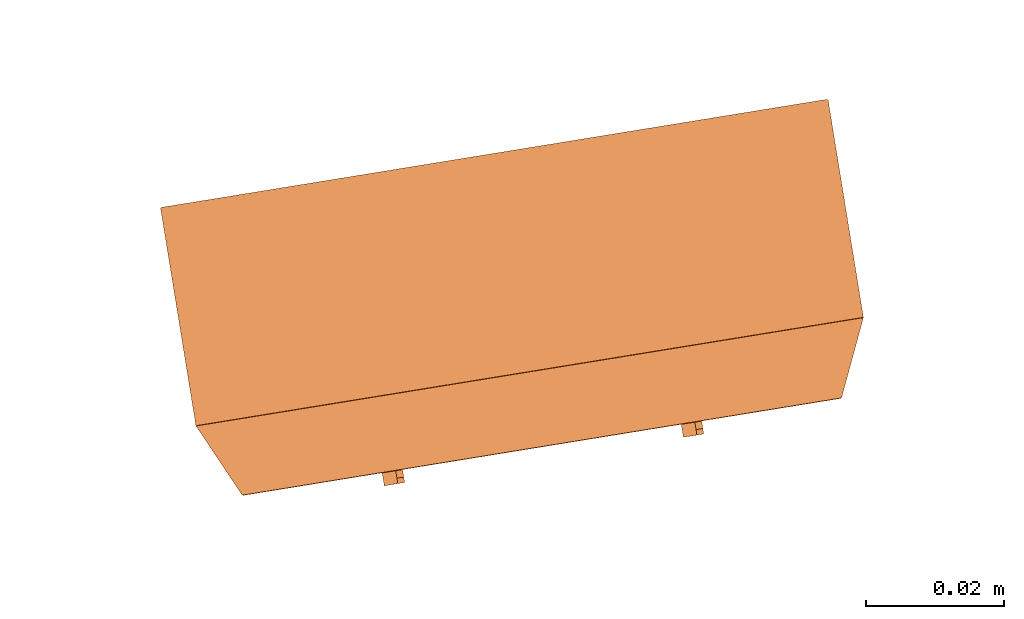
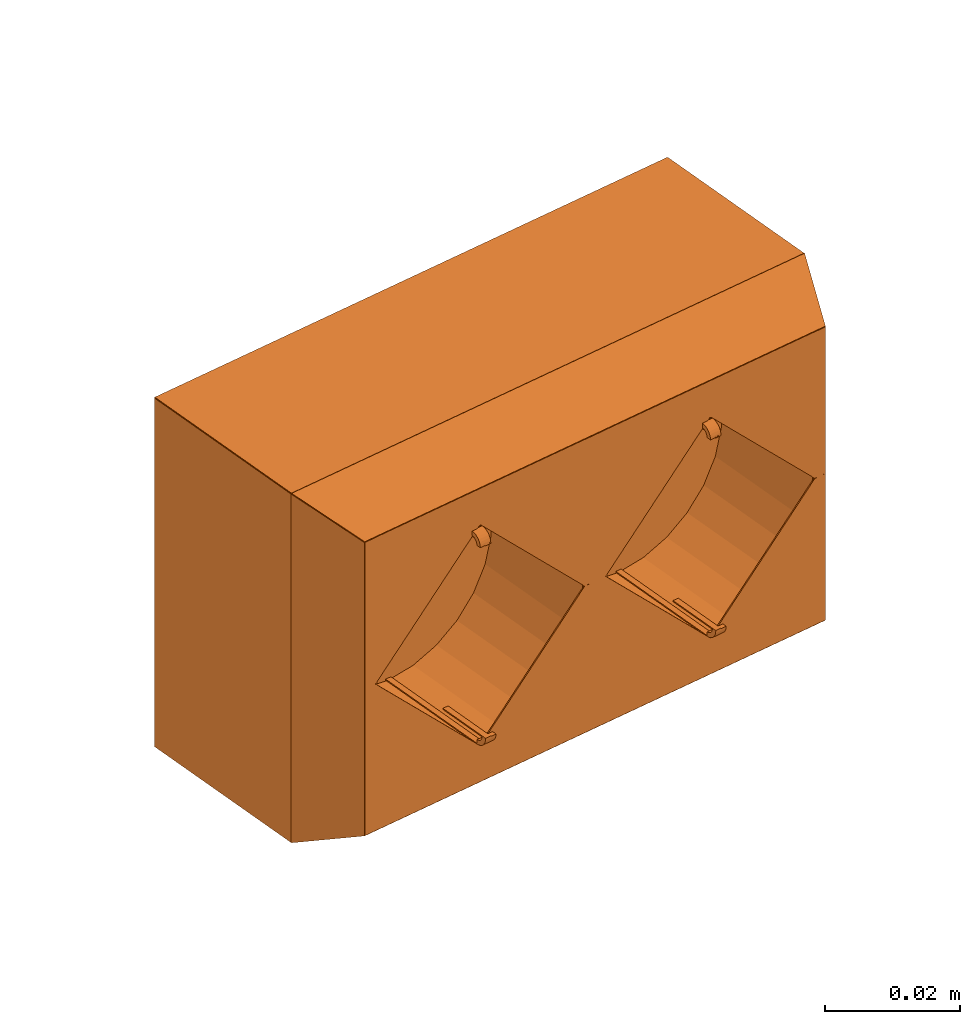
# One storey, part 11 of 20: 1 proxy.
"""IFC2X3 building model written with IfcOpenShell, lengths in millimetres."""

from ifc_helpers import new_model, entity, si_unit, converted_unit, derived_unit, direction, frame, frame_2d, origin, origin_with_axes, origin_2d_with_axis, place, context, subcontext, project, spatial, polyline, circle_curve, parameter, trimmed, segment, composite_curve, rectangle, circle, hollow_circle, outline, extrude, source, transform, mapped, material, type_object, element, save


model = new_model("IFC2X3")

# Units and contexts
model_context = context("Model", 3, precision=0.01, world=origin(), true_north=direction((6.12323399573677e-17, 1.0)))
plan_context = context("Plan", 3, precision=1e-05, world=origin_with_axes())
body_context = subcontext(model_context, "Body", "Model", "MODEL_VIEW")
ifc_project = project(units=[converted_unit("PLANEANGLEUNIT", "DEGREE", entity("IfcPositiveLengthMeasure", 0.0174532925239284), si_unit("PLANEANGLEUNIT", "RADIAN"), dimensions=[0, 0, 0, 0, 0, 0, 0]), si_unit("AREAUNIT", "SQUARE_METRE"), si_unit("LENGTHUNIT", "METRE", prefix="MILLI"), si_unit("MASSUNIT", "GRAM", prefix="KILO"), si_unit("POWERUNIT", "WATT"), si_unit("PRESSUREUNIT", "PASCAL", prefix="KILO"), si_unit("FORCEUNIT", "NEWTON", prefix="KILO"), si_unit("ELECTRICVOLTAGEUNIT", "VOLT"), si_unit("ELECTRICCURRENTUNIT", "AMPERE"), si_unit("THERMODYNAMICTEMPERATUREUNIT", "DEGREE_CELSIUS"), si_unit("TIMEUNIT", "SECOND"), si_unit("VOLUMEUNIT", "CUBIC_METRE"), derived_unit("LINEARVELOCITYUNIT", [(si_unit("LENGTHUNIT", "METRE"), 1), (si_unit("TIMEUNIT", "SECOND"), -1)]), derived_unit("VOLUMETRICFLOWRATEUNIT", [(si_unit("VOLUMEUNIT", "CUBIC_METRE"), 1), (si_unit("TIMEUNIT", "SECOND"), -1)]), derived_unit("THERMALTRANSMITTANCEUNIT", [(si_unit("POWERUNIT", "WATT"), 1), (si_unit("THERMODYNAMICTEMPERATUREUNIT", "KELVIN"), -1), (si_unit("AREAUNIT", "SQUARE_METRE"), -1)]), derived_unit("SOUNDPRESSUREUNIT", [(si_unit("PRESSUREUNIT", "PASCAL"), 1)])], contexts=[model_context, plan_context])

# Site, building, storey
site_placement = place(None, frame((-0.219946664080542, 0.12226179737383, 0.0), z_axis=(0.0, 0.0, 1.0), x_axis=(-0.160236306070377, 0.987078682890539, 0.0)))
site = spatial("IfcSite", under=ifc_project, at=site_placement, Name="Default", CompositionType="ELEMENT")
building_placement = place(site_placement, origin_with_axes())
building = spatial("IfcBuilding", under=site, at=building_placement, CompositionType="ELEMENT")
storey_placement = place(building_placement, frame((0.0, 0.0, 50999.9999999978), z_axis=(0.0, 0.0, 1.0), x_axis=(1.0, 0.0, 0.0)))
storey = spatial("IfcBuildingStorey", under=building, at=storey_placement, Name="Nivå D", CompositionType="ELEMENT", Elevation=50999.9999999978)

# Proxy
ifc_material = material(Name="<Unnamed>")
building_element_proxy_type = type_object("IfcBuildingElementProxyType", Name="Dobbel stikk på vegg 2P+J hor PH:EARTHED-SOCKET-2(HOR)", PredefinedType="NOTDEFINED", material=ifc_material)
shared_shape = source(origin(), body_context, "Body", "SweptSolid", [
    extrude(outline(composite_curve([segment(polyline([(-6.66666666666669, -6.66666666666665), (13.3333333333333, -6.66666666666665)]), True, "CONTINUOUS"), segment(trimmed(circle_curve(frame_2d((13.3333333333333, 13.3333333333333), x_axis=(0.0, -1.0)), 20.0), [parameter(270.0)], [parameter(5.08888749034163e-14)], True, "PARAMETER"), False, "CONTINUOUS"), segment(polyline([(-6.66666666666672, 13.3333333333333), (-6.66666666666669, -6.66666666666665)]), True, "CONTINUOUS")], self_intersect=False)), frame((35.3333333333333, 42.8999999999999, 13.3533333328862), z_axis=(0.0, 1.0, 0.0), x_axis=(0.0, 0.0, -1.0)), (0.0, 0.0, 1.0), 0.199999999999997),
    extrude(outline(composite_curve([segment(polyline([(-6.66666666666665, -6.66666666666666), (13.3333333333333, -6.66666666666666)]), True, "CONTINUOUS"), segment(trimmed(circle_curve(frame_2d((13.3333333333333, 13.3333333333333), x_axis=(-1.0, 0.0)), 20.0), [parameter(360.0)], [parameter(89.9999999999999)], True, "PARAMETER"), False, "CONTINUOUS"), segment(polyline([(-6.66666666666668, 13.3333333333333), (-6.66666666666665, -6.66666666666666)]), True, "CONTINUOUS")], self_intersect=False)), frame((35.3333333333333, 42.8999999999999, -13.3233333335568), z_axis=(0.0, 1.0, 0.0), x_axis=(-1.0, 0.0, 0.0)), (0.0, 0.0, 1.0), 0.199999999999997),
    extrude(outline(composite_curve([segment(polyline([(-6.66666666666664, -6.66666666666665), (13.3333333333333, -6.66666666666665)]), True, "CONTINUOUS"), segment(trimmed(circle_curve(frame_2d((13.3333333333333, 13.3333333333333), x_axis=(-1.0, 0.0)), 20.0), [parameter(0.0)], [parameter(89.9999999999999)], True, "PARAMETER"), False, "CONTINUOUS"), segment(polyline([(-6.66666666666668, 13.3333333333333), (-6.66666666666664, -6.66666666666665)]), True, "CONTINUOUS")], self_intersect=False)), frame((8.66666666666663, 42.8999999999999, 13.3433333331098), z_axis=(0.0, 1.0, 0.0), x_axis=(1.0, 0.0, 0.0)), (0.0, 0.0, 1.0), 0.199999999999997),
    extrude(outline(composite_curve([segment(polyline([(-6.66666666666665, -6.66666666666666), (13.3333333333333, -6.66666666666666)]), True, "CONTINUOUS"), segment(trimmed(circle_curve(frame_2d((13.3333333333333, 13.3333333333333), x_axis=(-1.0, 0.0)), 20.0), [parameter(360.0)], [parameter(89.9999999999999)], True, "PARAMETER"), False, "CONTINUOUS"), segment(polyline([(-6.66666666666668, 13.3333333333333), (-6.66666666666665, -6.66666666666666)]), True, "CONTINUOUS")], self_intersect=False)), frame((35.3333333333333, 42.8999999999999, -13.3433333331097), z_axis=(0.0, 1.0, 0.0), x_axis=(-1.0, 0.0, 0.0)), (0.0, 0.0, 1.0), 0.199999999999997),
    extrude(outline(composite_curve([segment(polyline([(-6.66666666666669, -6.66666666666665), (13.3333333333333, -6.66666666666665)]), True, "CONTINUOUS"), segment(trimmed(circle_curve(frame_2d((13.3333333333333, 13.3333333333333), x_axis=(0.0, -1.0)), 20.0), [parameter(270.0)], [parameter(5.08888749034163e-14)], True, "PARAMETER"), False, "CONTINUOUS"), segment(polyline([(-6.66666666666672, 13.3333333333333), (-6.66666666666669, -6.66666666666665)]), True, "CONTINUOUS")], self_intersect=False)), frame((35.3333333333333, 42.8999999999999, 13.3333333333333), z_axis=(0.0, 1.0, 0.0), x_axis=(0.0, 0.0, -1.0)), (0.0, 0.0, 1.0), 0.199999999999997),
    extrude(outline(composite_curve([segment(polyline([(-6.66666666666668, -6.66666666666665), (13.3333333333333, -6.66666666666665)]), True, "CONTINUOUS"), segment(trimmed(circle_curve(frame_2d((13.3333333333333, 13.3333333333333), x_axis=(0.0, -1.0)), 20.0), [parameter(270.0)], [parameter(0.0)], True, "PARAMETER"), False, "CONTINUOUS"), segment(polyline([(-6.66666666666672, 13.3333333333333), (-6.66666666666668, -6.66666666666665)]), True, "CONTINUOUS")], self_intersect=False)), frame((8.66666666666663, 42.8999999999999, -13.3333333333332), z_axis=(0.0, 1.0, 0.0), x_axis=(0.0, 0.0, 1.0)), (0.0, 0.0, 1.0), 0.199999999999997),
    extrude(outline(composite_curve([segment(polyline([(-6.66666666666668, -6.66666666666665), (13.3333333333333, -6.66666666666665)]), True, "CONTINUOUS"), segment(trimmed(circle_curve(frame_2d((13.3333333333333, 13.3333333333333), x_axis=(0.0, -1.0)), 20.0), [parameter(270.0)], [parameter(0.0)], True, "PARAMETER"), False, "CONTINUOUS"), segment(polyline([(-6.66666666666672, 13.3333333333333), (-6.66666666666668, -6.66666666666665)]), True, "CONTINUOUS")], self_intersect=False)), frame((-8.66666666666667, 42.8999999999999, 13.3533333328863), z_axis=(0.0, 1.0, 0.0), x_axis=(0.0, 0.0, -1.0)), (0.0, 0.0, 1.0), 0.199999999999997),
    extrude(outline(composite_curve([segment(polyline([(-6.66666666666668, -6.66666666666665), (13.3333333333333, -6.66666666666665)]), True, "CONTINUOUS"), segment(trimmed(circle_curve(frame_2d((13.3333333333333, 13.3333333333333), x_axis=(-1.0, 0.0)), 20.0), [parameter(0.0)], [parameter(90.0)], True, "PARAMETER"), False, "CONTINUOUS"), segment(polyline([(-6.66666666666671, 13.3333333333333), (-6.66666666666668, -6.66666666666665)]), True, "CONTINUOUS")], self_intersect=False)), frame((-8.66666666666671, 42.8999999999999, -13.3233333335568), z_axis=(0.0, 1.0, 0.0), x_axis=(-1.0, 0.0, 0.0)), (0.0, 0.0, 1.0), 0.199999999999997),
    extrude(outline(composite_curve([segment(polyline([(-6.66666666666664, -6.66666666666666), (13.3333333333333, -6.66666666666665)]), True, "CONTINUOUS"), segment(trimmed(circle_curve(frame_2d((13.3333333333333, 13.3333333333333), x_axis=(-1.0, 0.0)), 20.0), [parameter(360.0)], [parameter(89.9999999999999)], True, "PARAMETER"), False, "CONTINUOUS"), segment(polyline([(-6.66666666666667, 13.3333333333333), (-6.66666666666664, -6.66666666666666)]), True, "CONTINUOUS")], self_intersect=False)), frame((-35.3333333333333, 42.8999999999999, 13.3433333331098), z_axis=(0.0, 1.0, 0.0), x_axis=(1.0, 0.0, 0.0)), (0.0, 0.0, 1.0), 0.199999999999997),
    extrude(outline(composite_curve([segment(polyline([(-6.66666666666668, -6.66666666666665), (13.3333333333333, -6.66666666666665)]), True, "CONTINUOUS"), segment(trimmed(circle_curve(frame_2d((13.3333333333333, 13.3333333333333), x_axis=(-1.0, 0.0)), 20.0), [parameter(0.0)], [parameter(90.0)], True, "PARAMETER"), False, "CONTINUOUS"), segment(polyline([(-6.66666666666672, 13.3333333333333), (-6.66666666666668, -6.66666666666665)]), True, "CONTINUOUS")], self_intersect=False)), frame((-8.66666666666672, 42.8999999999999, -13.3433333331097), z_axis=(0.0, 1.0, 0.0), x_axis=(-1.0, 0.0, 0.0)), (0.0, 0.0, 1.0), 0.199999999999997),
    extrude(outline(composite_curve([segment(polyline([(-6.66666666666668, -6.66666666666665), (13.3333333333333, -6.66666666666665)]), True, "CONTINUOUS"), segment(trimmed(circle_curve(frame_2d((13.3333333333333, 13.3333333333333), x_axis=(0.0, -1.0)), 20.0), [parameter(270.0)], [parameter(0.0)], True, "PARAMETER"), False, "CONTINUOUS"), segment(polyline([(-6.66666666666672, 13.3333333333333), (-6.66666666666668, -6.66666666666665)]), True, "CONTINUOUS")], self_intersect=False)), frame((-8.66666666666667, 42.8999999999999, 13.3333333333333), z_axis=(0.0, 1.0, 0.0), x_axis=(0.0, 0.0, -1.0)), (0.0, 0.0, 1.0), 0.199999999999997),
    extrude(outline(composite_curve([segment(polyline([(-6.66666666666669, -6.66666666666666), (13.3333333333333, -6.66666666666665)]), True, "CONTINUOUS"), segment(trimmed(circle_curve(frame_2d((13.3333333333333, 13.3333333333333), x_axis=(0.0, -1.0)), 20.0), [parameter(270.0)], [parameter(5.08888749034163e-14)], True, "PARAMETER"), False, "CONTINUOUS"), segment(polyline([(-6.66666666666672, 13.3333333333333), (-6.66666666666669, -6.66666666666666)]), True, "CONTINUOUS")], self_intersect=False)), frame((-35.3333333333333, 42.8999999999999, -13.3333333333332), z_axis=(0.0, 1.0, 0.0), x_axis=(0.0, 0.0, 1.0)), (0.0, 0.0, 1.0), 0.199999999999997),
    extrude(rectangle(XDim=9.99999999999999, YDim=1.0, at=frame_2d((0.0, 2.1094237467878e-15), x_axis=(1.0, 0.0))), frame((22.0, 40.0, -17.6), z_axis=(0.0, 0.0, 1.0), x_axis=(0.0, -1.0, 0.0)), (0.0, 0.0, 1.0), 0.199999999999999),
    extrude(rectangle(XDim=21.5, YDim=1.0, at=frame_2d((0.0, 8.43769498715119e-15), x_axis=(1.0, 0.0))), frame((22.0, 32.25, -19.6), z_axis=(0.0, 0.0, 1.0), x_axis=(0.0, -1.0, 0.0)), (0.0, 0.0, 1.0), 0.200000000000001),
    extrude(rectangle(XDim=9.99999999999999, YDim=1.0, at=frame_2d((0.0, 2.1094237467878e-15), x_axis=(1.0, 0.0))), frame((22.0, 40.0, 17.4), z_axis=(0.0, 0.0, 1.0), x_axis=(0.0, -1.0, 0.0)), (0.0, 0.0, 1.0), 0.199999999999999),
    extrude(rectangle(XDim=21.5, YDim=1.0, at=frame_2d((0.0, 8.43769498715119e-15), x_axis=(1.0, 0.0))), frame((22.0, 32.25, 19.4), z_axis=(0.0, 0.0, 1.0), x_axis=(0.0, -1.0, 0.0)), (0.0, 0.0, 1.0), 0.200000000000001),
    extrude(rectangle(XDim=9.99999999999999, YDim=1.0, at=frame_2d((0.0, -2.1094237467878e-15), x_axis=(1.0, 0.0))), frame((-22.0, 40.0, -17.6), z_axis=(0.0, 0.0, 1.0), x_axis=(0.0, -1.0, 0.0)), (0.0, 0.0, 1.0), 0.199999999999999),
    extrude(rectangle(XDim=21.5, YDim=1.0, at=frame_2d((0.0, 8.43769498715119e-15), x_axis=(1.0, 0.0))), frame((-22.0, 32.25, -19.6), z_axis=(0.0, 0.0, 1.0), x_axis=(0.0, -1.0, 0.0)), (0.0, 0.0, 1.0), 0.200000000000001),
    extrude(rectangle(XDim=9.99999999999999, YDim=1.0, at=frame_2d((0.0, -2.1094237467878e-15), x_axis=(1.0, 0.0))), frame((-22.0, 40.0, 17.4), z_axis=(0.0, 0.0, 1.0), x_axis=(0.0, -1.0, 0.0)), (0.0, 0.0, 1.0), 0.199999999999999),
    extrude(rectangle(XDim=21.5, YDim=1.0, at=frame_2d((0.0, 8.43769498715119e-15), x_axis=(1.0, 0.0))), frame((-22.0, 32.25, 19.4), z_axis=(0.0, 0.0, 1.0), x_axis=(0.0, -1.0, 0.0)), (0.0, 0.0, 1.0), 0.200000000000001),
    extrude(rectangle(XDim=0.199999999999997, YDim=2.0, at=frame_2d((4.2257863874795e-15, 0.0), x_axis=(1.0, 0.0))), frame((43.0, 43.0, 0.0199999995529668), z_axis=(0.0, 0.0, 1.0), x_axis=(0.0, 1.0, 0.0)), (0.0, 0.0, 1.0), 20.0),
    extrude(rectangle(XDim=0.199999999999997, YDim=40.0, at=frame_2d((4.2257863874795e-15, 0.0), x_axis=(1.0, 0.0))), frame((22.0, 43.0, 20.0199999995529), z_axis=(0.0, 0.0, 1.0), x_axis=(0.0, 1.0, 0.0)), (0.0, 0.0, 1.0), 6.5),
    extrude(rectangle(XDim=0.199999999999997, YDim=2.0, at=frame_2d((4.2257863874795e-15, 0.0), x_axis=(1.0, 0.0))), frame((43.0, 43.0, -19.9900000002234), z_axis=(0.0, 0.0, 1.0), x_axis=(0.0, -1.0, 0.0)), (0.0, 0.0, 1.0), 20.0),
    extrude(rectangle(XDim=0.199999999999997, YDim=40.0, at=frame_2d((4.2257863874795e-15, 0.0), x_axis=(1.0, 0.0))), frame((22.0, 43.0, -26.4900000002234), z_axis=(0.0, 0.0, 1.0), x_axis=(0.0, -1.0, 0.0)), (0.0, 0.0, 1.0), 6.49999999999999),
    extrude(rectangle(XDim=0.199999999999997, YDim=2.0, at=frame_2d((4.2257863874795e-15, 0.0), x_axis=(1.0, 0.0))), frame((1.0, 43.0, 0.00999999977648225), z_axis=(0.0, 0.0, 1.0), x_axis=(0.0, -1.0, 0.0)), (0.0, 0.0, 1.0), 20.0),
    extrude(rectangle(XDim=0.199999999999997, YDim=2.0, at=frame_2d((4.2257863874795e-15, 0.0), x_axis=(1.0, 0.0))), frame((43.0, 43.0, -20.0099999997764), z_axis=(0.0, 0.0, 1.0), x_axis=(0.0, -1.0, 0.0)), (0.0, 0.0, 1.0), 20.0),
    extrude(rectangle(XDim=0.199999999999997, YDim=40.0, at=frame_2d((4.2257863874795e-15, 0.0), x_axis=(1.0, 0.0))), frame((22.0, 43.0, -26.5099999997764), z_axis=(0.0, 0.0, 1.0), x_axis=(0.0, -1.0, 0.0)), (0.0, 0.0, 1.0), 6.5),
    extrude(rectangle(XDim=0.199999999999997, YDim=2.0, at=frame_2d((4.2257863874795e-15, 0.0), x_axis=(1.0, 0.0))), frame((43.0, 43.0, 0.0), z_axis=(0.0, 0.0, 1.0), x_axis=(0.0, 1.0, 0.0)), (0.0, 0.0, 1.0), 20.0),
    extrude(rectangle(XDim=0.199999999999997, YDim=40.0, at=frame_2d((4.2257863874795e-15, 0.0), x_axis=(1.0, 0.0))), frame((22.0, 43.0, 20.0), z_axis=(0.0, 0.0, 1.0), x_axis=(0.0, 1.0, 0.0)), (0.0, 0.0, 1.0), 6.5),
    extrude(rectangle(XDim=0.199999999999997, YDim=2.0, at=frame_2d((4.2257863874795e-15, 0.0), x_axis=(1.0, 0.0))), frame((1.0, 43.0, -20.0), z_axis=(0.0, 0.0, 1.0), x_axis=(0.0, 1.0, 0.0)), (0.0, 0.0, 1.0), 20.0),
    extrude(rectangle(XDim=0.199999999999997, YDim=2.0, at=frame_2d((4.2257863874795e-15, 0.0), x_axis=(1.0, 0.0))), frame((-1.0, 43.0, 0.0199999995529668), z_axis=(0.0, 0.0, 1.0), x_axis=(0.0, 1.0, 0.0)), (0.0, 0.0, 1.0), 20.0),
    extrude(rectangle(XDim=0.199999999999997, YDim=40.0, at=frame_2d((4.2257863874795e-15, 0.0), x_axis=(1.0, 0.0))), frame((-22.0, 43.0, 20.0199999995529), z_axis=(0.0, 0.0, 1.0), x_axis=(0.0, 1.0, 0.0)), (0.0, 0.0, 1.0), 6.5),
    extrude(rectangle(XDim=0.199999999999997, YDim=2.0, at=frame_2d((4.2257863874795e-15, 0.0), x_axis=(1.0, 0.0))), frame((-1.0, 43.0, -19.9900000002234), z_axis=(0.0, 0.0, 1.0), x_axis=(0.0, -1.0, 0.0)), (0.0, 0.0, 1.0), 20.0),
    extrude(rectangle(XDim=0.199999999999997, YDim=40.0, at=frame_2d((4.2257863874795e-15, 0.0), x_axis=(1.0, 0.0))), frame((-22.0, 43.0, -26.4900000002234), z_axis=(0.0, 0.0, 1.0), x_axis=(0.0, -1.0, 0.0)), (0.0, 0.0, 1.0), 6.49999999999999),
    extrude(rectangle(XDim=0.199999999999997, YDim=1.99999999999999, at=frame_2d((4.2257863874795e-15, 4.2188474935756e-15), x_axis=(1.0, 0.0))), frame((-43.0, 43.0, 0.00999999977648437), z_axis=(0.0, 0.0, 1.0), x_axis=(0.0, -1.0, 0.0)), (0.0, 0.0, 1.0), 20.0),
    extrude(rectangle(XDim=0.199999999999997, YDim=2.0, at=frame_2d((4.2257863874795e-15, 0.0), x_axis=(1.0, 0.0))), frame((-1.0, 43.0, -20.0099999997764), z_axis=(0.0, 0.0, 1.0), x_axis=(0.0, -1.0, 0.0)), (0.0, 0.0, 1.0), 20.0),
    extrude(rectangle(XDim=0.199999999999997, YDim=40.0, at=frame_2d((4.2257863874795e-15, 0.0), x_axis=(1.0, 0.0))), frame((-22.0, 43.0, -26.5099999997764), z_axis=(0.0, 0.0, 1.0), x_axis=(0.0, -1.0, 0.0)), (0.0, 0.0, 1.0), 6.5),
    extrude(rectangle(XDim=0.199999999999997, YDim=2.0, at=frame_2d((4.2257863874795e-15, 0.0), x_axis=(1.0, 0.0))), frame((-1.0, 43.0, 0.0), z_axis=(0.0, 0.0, 1.0), x_axis=(0.0, 1.0, 0.0)), (0.0, 0.0, 1.0), 20.0),
    extrude(rectangle(XDim=0.199999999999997, YDim=40.0, at=frame_2d((4.2257863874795e-15, 0.0), x_axis=(1.0, 0.0))), frame((-22.0, 43.0, 20.0), z_axis=(0.0, 0.0, 1.0), x_axis=(0.0, 1.0, 0.0)), (0.0, 0.0, 1.0), 6.5),
    extrude(rectangle(XDim=0.199999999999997, YDim=1.99999999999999, at=frame_2d((4.2257863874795e-15, -4.2188474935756e-15), x_axis=(1.0, 0.0))), frame((-43.0, 43.0, -20.0), z_axis=(0.0, 0.0, 1.0), x_axis=(0.0, 1.0, 0.0)), (0.0, 0.0, 1.0), 20.0),
    extrude(rectangle(XDim=0.199999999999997, YDim=2.0, at=frame_2d((4.2257863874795e-15, 0.0), x_axis=(1.0, 0.0))), frame((-1.0, 43.0, -26.5), z_axis=(0.0, 0.0, 1.0), x_axis=(0.0, 1.0, 0.0)), (0.0, 0.0, 1.0), 6.49999999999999),
    extrude(rectangle(XDim=0.199999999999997, YDim=1.99999999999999, at=frame_2d((4.2257863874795e-15, 4.2188474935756e-15), x_axis=(1.0, 0.0))), frame((-43.0, 43.0, -26.5), z_axis=(0.0, 0.0, 1.0), x_axis=(0.0, 1.0, 0.0)), (0.0, 0.0, 1.0), 6.49999999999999),
    extrude(rectangle(XDim=0.199999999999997, YDim=2.0, at=frame_2d((4.2257863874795e-15, 0.0), x_axis=(1.0, 0.0))), frame((1.0, 43.0, -26.5), z_axis=(0.0, 0.0, 1.0), x_axis=(0.0, 1.0, 0.0)), (0.0, 0.0, 1.0), 6.49999999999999),
    extrude(rectangle(XDim=0.199999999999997, YDim=1.99999999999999, at=frame_2d((4.2257863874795e-15, -4.2188474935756e-15), x_axis=(1.0, 0.0))), frame((43.0, 43.0, -26.5), z_axis=(0.0, 0.0, 1.0), x_axis=(0.0, 1.0, 0.0)), (0.0, 0.0, 1.0), 6.49999999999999),
    extrude(outline(polyline([(-24.3180677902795, -42.966633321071), (-11.2413709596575, -42.9666333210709), (22.4062700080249, 38.3465652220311), (13.1531687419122, 47.5867014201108), (-24.3180677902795, -42.966633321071)])), frame((0.0, 37.5413802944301, -29.0910366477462), z_axis=(0.0, -0.413802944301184, 0.910366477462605), x_axis=(-0.382359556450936, 0.84119102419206, 0.382359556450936)), (0.0, 0.0, 1.0), 0.199999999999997),
    extrude(outline(polyline([(-31.5, -6.04152298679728), (31.5, -6.04152298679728), (26.5, 6.04152298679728), (-26.5, 6.04152298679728), (-31.5, -6.04152298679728)])), frame((-46.5910366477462, 37.5413802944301, 0.0), z_axis=(0.910366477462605, -0.413802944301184, 0.0), x_axis=(0.0, 0.0, -1.0)), (0.0, 0.0, 1.0), 0.200000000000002),
    extrude(outline(polyline([(-31.5, -6.04152298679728), (31.5, -6.04152298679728), (26.5, 6.04152298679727), (-26.5, 6.04152298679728), (-31.5, -6.04152298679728)])), frame((46.4089633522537, 37.4586197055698, 0.0), z_axis=(0.910366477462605, 0.413802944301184, 0.0), x_axis=(0.0, 0.0, -1.0)), (0.0, 0.0, 1.0), 0.199999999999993),
    extrude(rectangle(XDim=32.0, YDim=97.9999999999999, at=frame_2d((1.77635683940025e-15, 0.0), x_axis=(1.0, 0.0))), frame((0.0, 16.0, -31.6), z_axis=(0.0, 0.0, 1.0), x_axis=(0.0, -1.0, 0.0)), (0.0, 0.0, 1.0), 0.200000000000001),
    extrude(rectangle(XDim=0.199999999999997, YDim=2.0, at=frame_2d((4.2257863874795e-15, 0.0), x_axis=(1.0, 0.0))), frame((-1.0, 43.0, 20.0), z_axis=(0.0, 0.0, 1.0), x_axis=(0.0, 1.0, 0.0)), (0.0, 0.0, 1.0), 6.49999999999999),
    extrude(rectangle(XDim=0.199999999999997, YDim=1.99999999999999, at=frame_2d((4.2257863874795e-15, 4.2188474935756e-15), x_axis=(1.0, 0.0))), frame((-43.0, 43.0, 20.0), z_axis=(0.0, 0.0, 1.0), x_axis=(0.0, 1.0, 0.0)), (0.0, 0.0, 1.0), 6.49999999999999),
    extrude(outline(polyline([(-44.0, -6.04152298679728), (44.0, -6.04152298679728), (49.0, 6.04152298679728), (-49.0, 6.04152298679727), (-44.0, -6.04152298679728)])), frame((0.0, 37.4586197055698, 28.9089633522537), z_axis=(0.0, 0.413802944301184, 0.910366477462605), x_axis=(-1.0, 0.0, 0.0)), (0.0, 0.0, 1.0), 0.200000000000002),
    extrude(rectangle(XDim=0.199999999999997, YDim=2.0, at=frame_2d((4.2257863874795e-15, 0.0), x_axis=(1.0, 0.0))), frame((1.0, 43.0, 20.0), z_axis=(0.0, 0.0, 1.0), x_axis=(0.0, 1.0, 0.0)), (0.0, 0.0, 1.0), 6.49999999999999),
    extrude(rectangle(XDim=0.199999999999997, YDim=1.99999999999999, at=frame_2d((4.2257863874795e-15, -4.2188474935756e-15), x_axis=(1.0, 0.0))), frame((43.0, 43.0, 20.0), z_axis=(0.0, 0.0, 1.0), x_axis=(0.0, 1.0, 0.0)), (0.0, 0.0, 1.0), 6.49999999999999),
    extrude(rectangle(XDim=32.0, YDim=97.9999999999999, at=frame_2d((1.77635683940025e-15, 0.0), x_axis=(1.0, 0.0))), frame((0.0, 16.0, 31.4), z_axis=(0.0, 0.0, 1.0), x_axis=(0.0, -1.0, 0.0)), (0.0, 0.0, 1.0), 0.200000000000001),
    extrude(rectangle(XDim=0.199999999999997, YDim=32.0, at=frame_2d((-4.2257863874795e-15, 0.0), x_axis=(1.0, 0.0))), frame((49.0, 16.0, -31.5)), (0.0, 0.0, 1.0), 62.9999999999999),
    extrude(rectangle(XDim=0.199999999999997, YDim=32.0, at=frame_2d((-4.2257863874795e-15, 0.0), x_axis=(1.0, 0.0))), frame((-49.0, 16.0, -31.5)), (0.0, 0.0, 1.0), 62.9999999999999),
    extrude(rectangle(XDim=0.2, YDim=97.9999999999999, at=origin_2d_with_axis()), frame((0.0, 0.0, -31.5), z_axis=(0.0, 0.0, 1.0), x_axis=(0.0, 1.0, 0.0)), (0.0, 0.0, 1.0), 62.9999999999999),
    extrude(circle(Radius=2.5, at=frame_2d((0.0, -4.22994972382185e-15), x_axis=(1.0, 0.0))), frame((32.0, 21.450000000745, 0.0), z_axis=(0.0, 1.0, 0.0), x_axis=(0.0, 0.0, 1.0)), (0.0, 0.0, 1.0), 0.200000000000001),
    extrude(circle(Radius=2.5, at=frame_2d((0.0, -4.22994972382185e-15), x_axis=(1.0, 0.0))), frame((12.0, 21.450000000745, 0.0), z_axis=(0.0, 1.0, 0.0), x_axis=(0.0, 0.0, 1.0)), (0.0, 0.0, 1.0), 0.200000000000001),
    extrude(circle(Radius=2.5, at=frame_2d((0.0, -4.22994972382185e-15), x_axis=(1.0, 0.0))), frame((-12.0, 21.450000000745, 0.0), z_axis=(0.0, 1.0, 0.0), x_axis=(0.0, 0.0, 1.0)), (0.0, 0.0, 1.0), 0.200000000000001),
    extrude(circle(Radius=2.5, at=frame_2d((0.0, -4.22994972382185e-15), x_axis=(1.0, 0.0))), frame((-32.0, 21.450000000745, 0.0), z_axis=(0.0, 1.0, 0.0), x_axis=(0.0, 0.0, 1.0)), (0.0, 0.0, 1.0), 0.200000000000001),
    extrude(circle(Radius=20.0, at=frame_2d((0.0, -2.96096480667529e-14), x_axis=(1.0, 0.0))), frame((22.0, 21.4, 0.0), z_axis=(0.0, 1.0, 0.0), x_axis=(0.0, 0.0, 1.0)), (0.0, 0.0, 1.0), 0.200000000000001),
    extrude(circle(Radius=20.0, at=frame_2d((0.0, -2.96096480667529e-14), x_axis=(1.0, 0.0))), frame((-22.0, 21.4, 0.0), z_axis=(0.0, 1.0, 0.0), x_axis=(0.0, 0.0, 1.0)), (0.0, 0.0, 1.0), 0.200000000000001),
    extrude(outline(composite_curve([segment(trimmed(circle_curve(frame_2d((-0.800000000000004, 0.800000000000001), x_axis=(1.0, 0.0)), 2.0), [parameter(270.0)], [parameter(0.0)], True, "PARAMETER"), True, "CONTINUOUS"), segment(polyline([(1.2, 0.8), (0.399999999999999, 0.8)]), True, "CONTINUOUS"), segment(trimmed(circle_curve(frame_2d((-0.800000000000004, 0.799999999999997), x_axis=(0.0, -1.0)), 1.2), [parameter(0.0)], [parameter(89.9999999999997)], True, "PARAMETER"), False, "CONTINUOUS"), segment(polyline([(-0.799999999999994, -0.400000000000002), (-0.799999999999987, -1.2)]), True, "CONTINUOUS")], self_intersect=False)), frame((20.5, 43.7999999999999, -18.3), z_axis=(1.0, 0.0, 0.0), x_axis=(0.0, 1.0, 0.0)), (0.0, 0.0, 1.0), 2.0),
    extrude(outline(composite_curve([segment(polyline([(-1.2, -0.800000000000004), (-0.399999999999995, -0.800000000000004)]), True, "CONTINUOUS"), segment(trimmed(circle_curve(frame_2d((0.800000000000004, -0.800000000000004), x_axis=(-1.0, 0.0)), 1.2), [parameter(270.0)], [parameter(0.0)], True, "PARAMETER"), False, "CONTINUOUS"), segment(polyline([(0.799999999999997, 0.399999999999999), (0.79999999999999, 1.2)]), True, "CONTINUOUS"), segment(trimmed(circle_curve(frame_2d((0.800000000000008, -0.800000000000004), x_axis=(0.0, 1.0)), 2.0), [parameter(0.0)], [parameter(89.9999999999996)], True, "PARAMETER"), True, "CONTINUOUS")], self_intersect=False)), frame((21.5, 43.8, 18.3), z_axis=(1.0, 0.0, 0.0), x_axis=(0.0, 0.0, -1.0)), (0.0, 0.0, 1.0), 2.0),
    extrude(outline(composite_curve([segment(trimmed(circle_curve(frame_2d((-0.800000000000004, 0.800000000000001), x_axis=(1.0, 0.0)), 2.0), [parameter(270.0)], [parameter(0.0)], True, "PARAMETER"), True, "CONTINUOUS"), segment(polyline([(1.2, 0.8), (0.399999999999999, 0.8)]), True, "CONTINUOUS"), segment(trimmed(circle_curve(frame_2d((-0.800000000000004, 0.799999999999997), x_axis=(0.0, -1.0)), 1.2), [parameter(0.0)], [parameter(89.9999999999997)], True, "PARAMETER"), False, "CONTINUOUS"), segment(polyline([(-0.799999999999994, -0.400000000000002), (-0.799999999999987, -1.2)]), True, "CONTINUOUS")], self_intersect=False)), frame((-23.5, 43.7999999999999, -18.3), z_axis=(1.0, 0.0, 0.0), x_axis=(0.0, 1.0, 0.0)), (0.0, 0.0, 1.0), 2.0),
    extrude(outline(composite_curve([segment(polyline([(-1.2, -0.800000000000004), (-0.399999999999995, -0.800000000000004)]), True, "CONTINUOUS"), segment(trimmed(circle_curve(frame_2d((0.800000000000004, -0.800000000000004), x_axis=(-1.0, 0.0)), 1.2), [parameter(270.0)], [parameter(0.0)], True, "PARAMETER"), False, "CONTINUOUS"), segment(polyline([(0.799999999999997, 0.399999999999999), (0.79999999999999, 1.2)]), True, "CONTINUOUS"), segment(trimmed(circle_curve(frame_2d((0.800000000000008, -0.800000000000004), x_axis=(0.0, 1.0)), 2.0), [parameter(0.0)], [parameter(89.9999999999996)], True, "PARAMETER"), True, "CONTINUOUS")], self_intersect=False)), frame((-22.5, 43.8, 18.3), z_axis=(1.0, 0.0, 0.0), x_axis=(0.0, 0.0, -1.0)), (0.0, 0.0, 1.0), 2.0),
    extrude(hollow_circle(Radius=20.0, WallThickness=0.199999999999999, at=frame_2d((0.0, -2.96096480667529e-14), x_axis=(1.0, 0.0))), frame((22.0, 21.5, 0.0), z_axis=(0.0, 1.0, 0.0), x_axis=(0.0, 0.0, 1.0)), (0.0, 0.0, 1.0), 21.5),
    extrude(hollow_circle(Radius=20.0, WallThickness=0.199999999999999, at=frame_2d((0.0, -2.96096480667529e-14), x_axis=(1.0, 0.0))), frame((-22.0, 21.5, 0.0), z_axis=(0.0, 1.0, 0.0), x_axis=(0.0, 0.0, 1.0)), (0.0, 0.0, 1.0), 21.5),
])
proxy_placement = place(storey_placement, frame((771582.519644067, -595725.442936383, 500.0), z_axis=(0.0, 0.0, 1.0), x_axis=(0.0, 1.0, 0.0)))
element("IfcBuildingElementProxy", 1, at=proxy_placement, inside=storey, type_object=building_element_proxy_type, material=ifc_material, Name="Dobbel stikk på vegg 2P+J hor PH:EARTHED-SOCKET-2(HOR)", ObjectType="Dobbel stikk på vegg 2P+J hor PH:EARTHED-SOCKET-2(HOR)", context=body_context, shape_type="MappedRepresentation", body=[
    mapped(shared_shape, transform((0.0, 0.0, 0.0), scale=1.0)),
])

save(model, "model.ifc")
